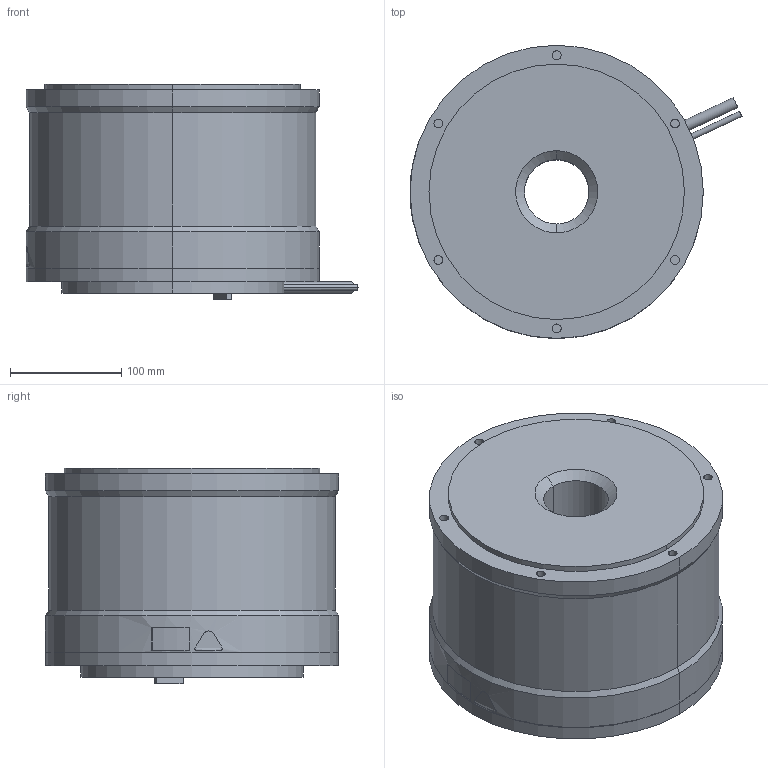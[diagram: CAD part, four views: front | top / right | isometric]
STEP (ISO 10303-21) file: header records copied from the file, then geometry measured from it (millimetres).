
FILE_DESCRIPTION (( 'STEP AP203' ), '1' );
FILE_NAME ('sgm7d_1af_c4_.STEP', '2016-02-22T07:43:38', ( '' ), ( '' ), 'SwSTEP 2.0', 'SolidWorks 2010', '' );
FILE_SCHEMA (( 'CONFIG_CONTROL_DESIGN' ));
Length unit declared in the file: millimetre
Products named in the file (1): sgm7d_1af_c4_
Bounding box: 298.93 x 264 x 194 mm (x, y, z)
Volume: 9202777.6 mm3; surface area: 305746.3 mm2
Topology: 3 solids, 3 shells, 203 faces, 432 edges, 282 vertices
Faces by surface type: cylinder 122, plane 70, cone 6, bspline 5
Entity records: 5969 total; most frequent: CARTESIAN_POINT 1295, DIRECTION 1066, ORIENTED_EDGE 864, AXIS2_PLACEMENT_3D 455, EDGE_CURVE 432, VERTEX_POINT 282, CIRCLE 256, EDGE_LOOP 252
